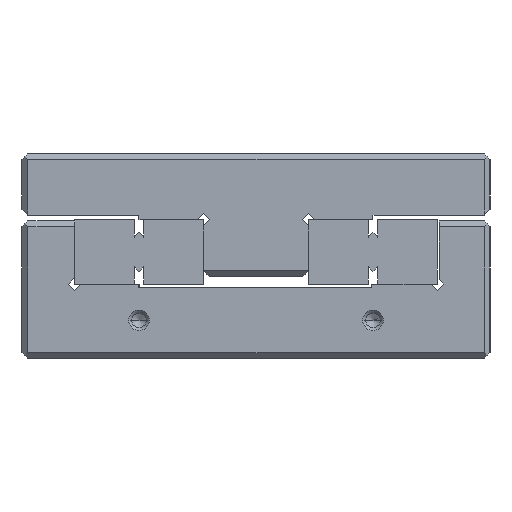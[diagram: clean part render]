
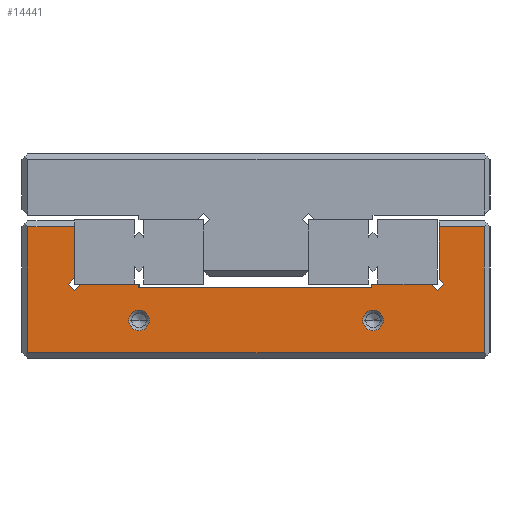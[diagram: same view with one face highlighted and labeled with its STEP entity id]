
A CAD part, left-side view. The second image highlights one B-rep face of the part: STEP entity #14441.
In plain terms, the highlighted planar face has unit normal (-1, 0, 0).
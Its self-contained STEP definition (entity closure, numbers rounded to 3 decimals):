
#10527=CARTESIAN_POINT('',(-142.5,-20.,6.5));
#10528=DIRECTION('',(1.,0.,0.));
#10529=DIRECTION('',(0.,-1.,0.));
#10530=AXIS2_PLACEMENT_3D('',#10527,#10528,#10529);
#10532=CARTESIAN_POINT('',(-142.5,-20.,6.5));
#10533=DIRECTION('',(1.,0.,0.));
#10534=DIRECTION('',(0.,1.,0.));
#10535=AXIS2_PLACEMENT_3D('',#10532,#10533,#10534);
#10537=DIRECTION('',(0.,-1.,0.));
#10538=VECTOR('',#10537,8.);
#10539=CARTESIAN_POINT('',(-142.5,39.,22.5));
#10540=LINE('',#10539,#10538);
#10541=DIRECTION('',(0.,0.,-1.));
#10542=VECTOR('',#10541,8.739);
#10543=CARTESIAN_POINT('',(-142.5,31.,22.5));
#10544=LINE('',#10543,#10542);
#10545=DIRECTION('',(0.,-0.707,0.707));
#10546=VECTOR('',#10545,1.5);
#10547=CARTESIAN_POINT('',(-142.5,32.061,12.7));
#10548=LINE('',#10547,#10546);
#10549=DIRECTION('',(0.,0.707,0.707));
#10550=VECTOR('',#10549,1.5);
#10551=CARTESIAN_POINT('',(-142.5,31.,11.639));
#10552=LINE('',#10551,#10550);
#10553=DIRECTION('',(0.,0.707,-0.707));
#10554=VECTOR('',#10553,1.5);
#10555=CARTESIAN_POINT('',(-142.5,29.939,12.7));
#10556=LINE('',#10555,#10554);
#10557=DIRECTION('',(0.,-1.,0.));
#10558=VECTOR('',#10557,9.939);
#10559=CARTESIAN_POINT('',(-142.5,29.939,12.7));
#10560=LINE('',#10559,#10558);
#10561=DIRECTION('',(0.,0.,-1.));
#10562=VECTOR('',#10561,0.6);
#10563=CARTESIAN_POINT('',(-142.5,20.,12.7));
#10564=LINE('',#10563,#10562);
#10565=DIRECTION('',(0.,-1.,0.));
#10566=VECTOR('',#10565,39.8);
#10567=CARTESIAN_POINT('',(-142.5,20.,12.1));
#10568=LINE('',#10567,#10566);
#10569=DIRECTION('',(0.,0.,1.));
#10570=VECTOR('',#10569,0.6);
#10571=CARTESIAN_POINT('',(-142.5,-19.8,12.1));
#10572=LINE('',#10571,#10570);
#10573=DIRECTION('',(0.,-1.,0.));
#10574=VECTOR('',#10573,10.139);
#10575=CARTESIAN_POINT('',(-142.5,-19.8,12.7));
#10576=LINE('',#10575,#10574);
#10577=DIRECTION('',(0.,0.707,0.707));
#10578=VECTOR('',#10577,1.5);
#10579=CARTESIAN_POINT('',(-142.5,-31.,11.639));
#10580=LINE('',#10579,#10578);
#10581=DIRECTION('',(0.,0.707,-0.707));
#10582=VECTOR('',#10581,1.5);
#10583=CARTESIAN_POINT('',(-142.5,-32.061,12.7));
#10584=LINE('',#10583,#10582);
#10585=DIRECTION('',(0.,-0.707,-0.707));
#10586=VECTOR('',#10585,1.076);
#10587=CARTESIAN_POINT('',(-142.5,-31.3,13.461));
#10588=LINE('',#10587,#10586);
#10589=DIRECTION('',(0.,0.,-1.));
#10590=VECTOR('',#10589,9.039);
#10591=CARTESIAN_POINT('',(-142.5,-31.3,22.5));
#10592=LINE('',#10591,#10590);
#10593=DIRECTION('',(0.,-1.,0.));
#10594=VECTOR('',#10593,7.7);
#10595=CARTESIAN_POINT('',(-142.5,-31.3,22.5));
#10596=LINE('',#10595,#10594);
#10597=DIRECTION('',(0.,0.,-1.));
#10598=VECTOR('',#10597,21.5);
#10599=CARTESIAN_POINT('',(-142.5,-39.,22.5));
#10600=LINE('',#10599,#10598);
#10601=DIRECTION('',(0.,1.,0.));
#10602=VECTOR('',#10601,78.);
#10603=CARTESIAN_POINT('',(-142.5,-39.,1.));
#10604=LINE('',#10603,#10602);
#10605=DIRECTION('',(0.,0.,-1.));
#10606=VECTOR('',#10605,21.5);
#10607=CARTESIAN_POINT('',(-142.5,39.,22.5));
#10608=LINE('',#10607,#10606);
#10609=CARTESIAN_POINT('',(-142.5,20.,6.5));
#10610=DIRECTION('',(1.,0.,0.));
#10611=DIRECTION('',(0.,-1.,0.));
#10612=AXIS2_PLACEMENT_3D('',#10609,#10610,#10611);
#10614=CARTESIAN_POINT('',(-142.5,20.,6.5));
#10615=DIRECTION('',(1.,0.,0.));
#10616=DIRECTION('',(0.,1.,0.));
#10617=AXIS2_PLACEMENT_3D('',#10614,#10615,#10616);
#13187=CARTESIAN_POINT('',(-142.5,20.,12.7));
#13188=CARTESIAN_POINT('',(-142.5,20.,12.1));
#13189=VERTEX_POINT('',#13187);
#13190=VERTEX_POINT('',#13188);
#13191=CARTESIAN_POINT('',(-142.5,-19.8,12.1));
#13192=VERTEX_POINT('',#13191);
#13193=CARTESIAN_POINT('',(-142.5,-19.8,12.7));
#13194=VERTEX_POINT('',#13193);
#13415=CARTESIAN_POINT('',(-142.5,-21.75,6.5));
#13416=CARTESIAN_POINT('',(-142.5,-18.25,6.5));
#13417=VERTEX_POINT('',#13415);
#13418=VERTEX_POINT('',#13416);
#13424=CARTESIAN_POINT('',(-142.5,31.,22.5));
#13426=VERTEX_POINT('',#13424);
#13427=CARTESIAN_POINT('',(-142.5,39.,22.5));
#13428=VERTEX_POINT('',#13427);
#13439=CARTESIAN_POINT('',(-142.5,-31.3,22.5));
#13441=VERTEX_POINT('',#13439);
#13445=CARTESIAN_POINT('',(-142.5,-39.,22.5));
#13446=VERTEX_POINT('',#13445);
#13447=CARTESIAN_POINT('',(-142.5,-39.,1.));
#13448=CARTESIAN_POINT('',(-142.5,39.,1.));
#13449=VERTEX_POINT('',#13447);
#13450=VERTEX_POINT('',#13448);
#13523=CARTESIAN_POINT('',(-142.5,18.25,6.5));
#13524=CARTESIAN_POINT('',(-142.5,21.75,6.5));
#13525=VERTEX_POINT('',#13523);
#13526=VERTEX_POINT('',#13524);
#13799=CARTESIAN_POINT('',(-142.5,-31.3,13.461));
#13800=CARTESIAN_POINT('',(-142.5,-32.061,12.7));
#13801=VERTEX_POINT('',#13799);
#13802=VERTEX_POINT('',#13800);
#13803=CARTESIAN_POINT('',(-142.5,-31.,11.639));
#13804=VERTEX_POINT('',#13803);
#13805=CARTESIAN_POINT('',(-142.5,-29.939,12.7));
#13806=VERTEX_POINT('',#13805);
#13807=CARTESIAN_POINT('',(-142.5,29.939,12.7));
#13808=CARTESIAN_POINT('',(-142.5,31.,11.639));
#13809=VERTEX_POINT('',#13807);
#13810=VERTEX_POINT('',#13808);
#13811=CARTESIAN_POINT('',(-142.5,32.061,12.7));
#13812=VERTEX_POINT('',#13811);
#13813=CARTESIAN_POINT('',(-142.5,31.,13.761));
#13814=VERTEX_POINT('',#13813);
#14388=CARTESIAN_POINT('',(-142.5,40.,0.));
#14389=DIRECTION('',(-1.,0.,0.));
#14390=DIRECTION('',(0.,-1.,0.));
#14391=AXIS2_PLACEMENT_3D('',#14388,#14389,#14390);
#14392=PLANE('',#14391);
#14394=ORIENTED_EDGE('',*,*,#14393,.T.);
#14396=ORIENTED_EDGE('',*,*,#14395,.T.);
#14398=ORIENTED_EDGE('',*,*,#14397,.F.);
#14400=ORIENTED_EDGE('',*,*,#14399,.F.);
#14402=ORIENTED_EDGE('',*,*,#14401,.F.);
#14404=ORIENTED_EDGE('',*,*,#14403,.T.);
#14406=ORIENTED_EDGE('',*,*,#14405,.T.);
#14408=ORIENTED_EDGE('',*,*,#14407,.T.);
#14410=ORIENTED_EDGE('',*,*,#14409,.T.);
#14411=ORIENTED_EDGE('',*,*,#14217,.T.);
#14412=ORIENTED_EDGE('',*,*,#14378,.F.);
#14414=ORIENTED_EDGE('',*,*,#14413,.F.);
#14416=ORIENTED_EDGE('',*,*,#14415,.F.);
#14418=ORIENTED_EDGE('',*,*,#14417,.F.);
#14420=ORIENTED_EDGE('',*,*,#14419,.T.);
#14422=ORIENTED_EDGE('',*,*,#14421,.T.);
#14424=ORIENTED_EDGE('',*,*,#14423,.T.);
#14426=ORIENTED_EDGE('',*,*,#14425,.F.);
#14427=EDGE_LOOP('',(#14394,#14396,#14398,#14400,#14402,#14404,#14406,#14408,
#14410,#14411,#14412,#14414,#14416,#14418,#14420,#14422,#14424,#14426));
#14428=FACE_OUTER_BOUND('',#14427,.F.);
#14430=ORIENTED_EDGE('',*,*,#14429,.F.);
#14432=ORIENTED_EDGE('',*,*,#14431,.F.);
#14433=EDGE_LOOP('',(#14430,#14432));
#14434=FACE_BOUND('',#14433,.F.);
#14436=ORIENTED_EDGE('',*,*,#14435,.F.);
#14438=ORIENTED_EDGE('',*,*,#14437,.F.);
#14439=EDGE_LOOP('',(#14436,#14438));
#14440=FACE_BOUND('',#14439,.F.);
#14441=ADVANCED_FACE('',(#14428,#14434,#14440),#14392,.T.);
#10531=CIRCLE('',#10530,1.75);
#10536=CIRCLE('',#10535,1.75);
#10613=CIRCLE('',#10612,1.75);
#10618=CIRCLE('',#10617,1.75);
#14217=EDGE_CURVE('',#13194,#13806,#10576,.T.);
#14378=EDGE_CURVE('',#13804,#13806,#10580,.T.);
#14393=EDGE_CURVE('',#13428,#13426,#10540,.T.);
#14395=EDGE_CURVE('',#13426,#13814,#10544,.T.);
#14397=EDGE_CURVE('',#13812,#13814,#10548,.T.);
#14399=EDGE_CURVE('',#13810,#13812,#10552,.T.);
#14401=EDGE_CURVE('',#13809,#13810,#10556,.T.);
#14403=EDGE_CURVE('',#13809,#13189,#10560,.T.);
#14405=EDGE_CURVE('',#13189,#13190,#10564,.T.);
#14407=EDGE_CURVE('',#13190,#13192,#10568,.T.);
#14409=EDGE_CURVE('',#13192,#13194,#10572,.T.);
#14413=EDGE_CURVE('',#13802,#13804,#10584,.T.);
#14415=EDGE_CURVE('',#13801,#13802,#10588,.T.);
#14417=EDGE_CURVE('',#13441,#13801,#10592,.T.);
#14419=EDGE_CURVE('',#13441,#13446,#10596,.T.);
#14421=EDGE_CURVE('',#13446,#13449,#10600,.T.);
#14423=EDGE_CURVE('',#13449,#13450,#10604,.T.);
#14425=EDGE_CURVE('',#13428,#13450,#10608,.T.);
#14429=EDGE_CURVE('',#13417,#13418,#10531,.T.);
#14431=EDGE_CURVE('',#13418,#13417,#10536,.T.);
#14435=EDGE_CURVE('',#13525,#13526,#10613,.T.);
#14437=EDGE_CURVE('',#13526,#13525,#10618,.T.);
